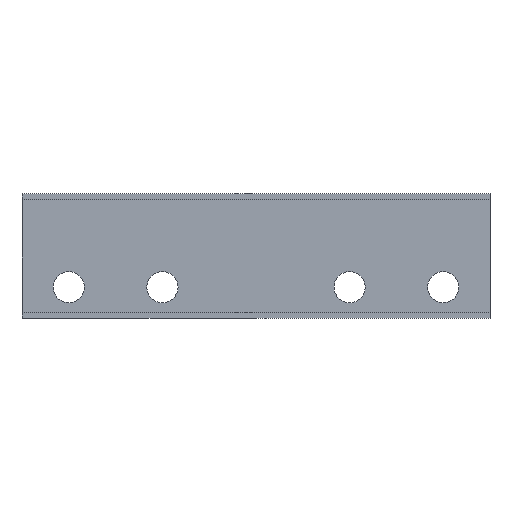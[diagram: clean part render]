
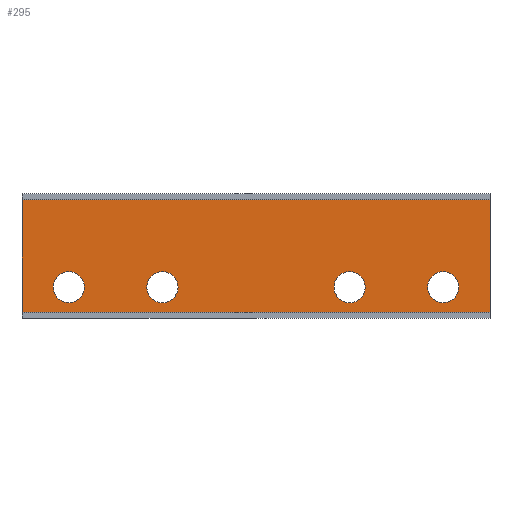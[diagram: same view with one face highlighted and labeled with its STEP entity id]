
A CAD part, top view. The second image highlights one B-rep face of the part: STEP entity #295.
In plain terms, the highlighted planar face has unit normal (0, 0, 1).
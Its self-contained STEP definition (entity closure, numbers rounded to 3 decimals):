
#15=FACE_BOUND('',#54,.T.);
#16=FACE_BOUND('',#55,.T.);
#17=FACE_BOUND('',#56,.T.);
#18=FACE_BOUND('',#57,.T.);
#25=PLANE('',#341);
#39=FACE_OUTER_BOUND('',#53,.T.);
#53=EDGE_LOOP('',(#233,#234,#235,#236));
#54=EDGE_LOOP('',(#237,#238));
#55=EDGE_LOOP('',(#239,#240));
#56=EDGE_LOOP('',(#241,#242));
#57=EDGE_LOOP('',(#243,#244));
#74=LINE('',#469,#102);
#80=LINE('',#481,#108);
#81=LINE('',#483,#109);
#82=LINE('',#484,#110);
#102=VECTOR('',#390,10.);
#108=VECTOR('',#398,10.);
#109=VECTOR('',#401,10.);
#110=VECTOR('',#402,10.);
#125=CIRCLE('',#324,2.5);
#126=CIRCLE('',#325,2.5);
#128=CIRCLE('',#328,2.5);
#129=CIRCLE('',#329,2.5);
#131=CIRCLE('',#332,2.5);
#132=CIRCLE('',#333,2.5);
#134=CIRCLE('',#336,2.5);
#135=CIRCLE('',#337,2.5);
#137=VERTEX_POINT('',#433);
#138=VERTEX_POINT('',#434);
#140=VERTEX_POINT('',#441);
#141=VERTEX_POINT('',#442);
#143=VERTEX_POINT('',#449);
#144=VERTEX_POINT('',#450);
#146=VERTEX_POINT('',#457);
#147=VERTEX_POINT('',#458);
#149=VERTEX_POINT('',#465);
#151=VERTEX_POINT('',#468);
#154=VERTEX_POINT('',#475);
#156=VERTEX_POINT('',#479);
#165=EDGE_CURVE('',#137,#138,#125,.T.);
#166=EDGE_CURVE('',#138,#137,#126,.T.);
#169=EDGE_CURVE('',#140,#141,#128,.T.);
#170=EDGE_CURVE('',#141,#140,#129,.T.);
#173=EDGE_CURVE('',#143,#144,#131,.T.);
#174=EDGE_CURVE('',#144,#143,#132,.T.);
#177=EDGE_CURVE('',#146,#147,#134,.T.);
#178=EDGE_CURVE('',#147,#146,#135,.T.);
#182=EDGE_CURVE('',#151,#149,#74,.T.);
#188=EDGE_CURVE('',#156,#154,#80,.T.);
#189=EDGE_CURVE('',#154,#149,#81,.T.);
#190=EDGE_CURVE('',#151,#156,#82,.T.);
#233=ORIENTED_EDGE('',*,*,#189,.F.);
#234=ORIENTED_EDGE('',*,*,#188,.F.);
#235=ORIENTED_EDGE('',*,*,#190,.F.);
#236=ORIENTED_EDGE('',*,*,#182,.T.);
#237=ORIENTED_EDGE('',*,*,#165,.T.);
#238=ORIENTED_EDGE('',*,*,#166,.T.);
#239=ORIENTED_EDGE('',*,*,#169,.T.);
#240=ORIENTED_EDGE('',*,*,#170,.T.);
#241=ORIENTED_EDGE('',*,*,#173,.T.);
#242=ORIENTED_EDGE('',*,*,#174,.T.);
#243=ORIENTED_EDGE('',*,*,#177,.T.);
#244=ORIENTED_EDGE('',*,*,#178,.T.);
#295=ADVANCED_FACE('',(#39,#15,#16,#17,#18),#25,.F.);
#324=AXIS2_PLACEMENT_3D('',#435,#353,#354);
#325=AXIS2_PLACEMENT_3D('',#436,#355,#356);
#328=AXIS2_PLACEMENT_3D('',#443,#362,#363);
#329=AXIS2_PLACEMENT_3D('',#444,#364,#365);
#332=AXIS2_PLACEMENT_3D('',#451,#371,#372);
#333=AXIS2_PLACEMENT_3D('',#452,#373,#374);
#336=AXIS2_PLACEMENT_3D('',#459,#380,#381);
#337=AXIS2_PLACEMENT_3D('',#460,#382,#383);
#341=AXIS2_PLACEMENT_3D('',#482,#399,#400);
#353=DIRECTION('center_axis',(0.,0.,
-1.));
#354=DIRECTION('ref_axis',(1.,0.,0.));
#355=DIRECTION('center_axis',(0.,0.,
-1.));
#356=DIRECTION('ref_axis',(1.,0.,0.));
#362=DIRECTION('center_axis',(0.,0.,
-1.));
#363=DIRECTION('ref_axis',(1.,0.,0.));
#364=DIRECTION('center_axis',(0.,0.,
-1.));
#365=DIRECTION('ref_axis',(1.,0.,0.));
#371=DIRECTION('center_axis',(0.,0.,
-1.));
#372=DIRECTION('ref_axis',(1.,0.,0.));
#373=DIRECTION('center_axis',(0.,0.,
-1.));
#374=DIRECTION('ref_axis',(1.,0.,0.));
#380=DIRECTION('center_axis',(0.,0.,
-1.));
#381=DIRECTION('ref_axis',(1.,0.,0.));
#382=DIRECTION('center_axis',(0.,0.,
-1.));
#383=DIRECTION('ref_axis',(1.,0.,0.));
#390=DIRECTION('',(-1.,0.,0.));
#398=DIRECTION('',(-1.,0.,0.));
#399=DIRECTION('center_axis',(0.,0.,
-1.));
#400=DIRECTION('ref_axis',(-1.,0.,0.));
#401=DIRECTION('',(0.,1.,0.));
#402=DIRECTION('',(0.,-1.,0.));
#433=CARTESIAN_POINT('',(25.,5.,3.5));
#434=CARTESIAN_POINT('',(20.,5.,3.5));
#435=CARTESIAN_POINT('Origin',(22.5,5.,3.5));
#436=CARTESIAN_POINT('Origin',(22.5,5.,3.5));
#441=CARTESIAN_POINT('',(10.,5.,3.5));
#442=CARTESIAN_POINT('',(5.,5.,3.5));
#443=CARTESIAN_POINT('Origin',(7.5,5.,3.5));
#444=CARTESIAN_POINT('Origin',(7.5,5.,3.5));
#449=CARTESIAN_POINT('',(55.,5.,3.5));
#450=CARTESIAN_POINT('',(50.,5.,3.5));
#451=CARTESIAN_POINT('Origin',(52.5,5.,3.5));
#452=CARTESIAN_POINT('Origin',(52.5,5.,3.5));
#457=CARTESIAN_POINT('',(70.,5.,3.5));
#458=CARTESIAN_POINT('',(65.,5.,3.5));
#459=CARTESIAN_POINT('Origin',(67.5,5.,3.5));
#460=CARTESIAN_POINT('Origin',(67.5,5.,3.5));
#465=CARTESIAN_POINT('',(0.,19.05,3.5));
#468=CARTESIAN_POINT('',(75.,19.05,3.5));
#469=CARTESIAN_POINT('',(75.,19.05,3.5));
#475=CARTESIAN_POINT('',(0.,0.95,3.5));
#479=CARTESIAN_POINT('',(75.,0.95,3.5));
#481=CARTESIAN_POINT('',(75.,0.95,3.5));
#482=CARTESIAN_POINT('Origin',(75.,0.95,3.5));
#483=CARTESIAN_POINT('',(0.,0.475,3.5));
#484=CARTESIAN_POINT('',(75.,10.475,3.5));
